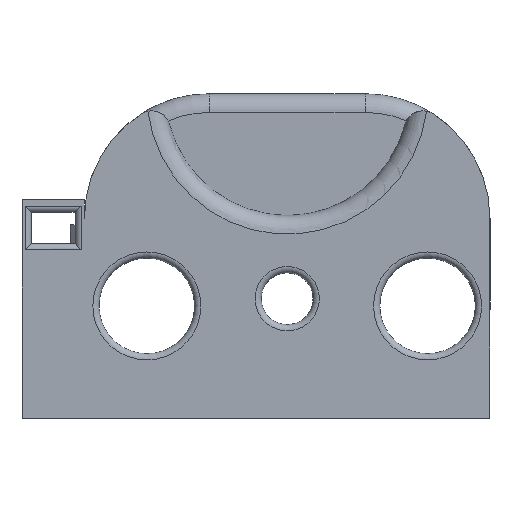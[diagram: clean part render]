
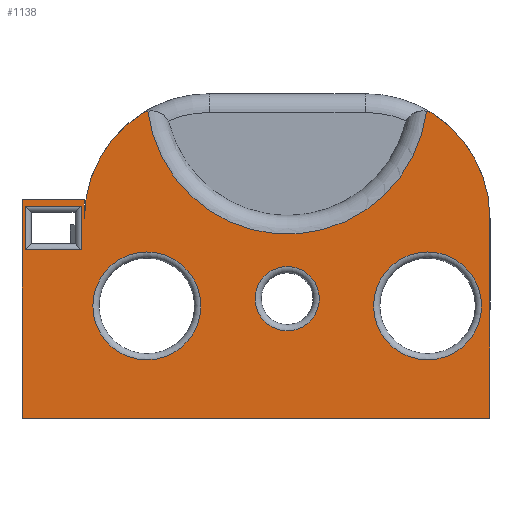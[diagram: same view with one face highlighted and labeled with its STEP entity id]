
A CAD part, left-side view. The second image highlights one B-rep face of the part: STEP entity #1138.
In plain terms, the highlighted planar face has unit normal (-1, 0, 0).
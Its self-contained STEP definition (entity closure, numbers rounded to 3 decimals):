
#32=FACE_BOUND('',#177,.T.);
#33=FACE_BOUND('',#178,.T.);
#34=FACE_BOUND('',#179,.T.);
#35=FACE_BOUND('',#180,.T.);
#61=PLANE('',#1242);
#107=FACE_OUTER_BOUND('',#176,.T.);
#176=EDGE_LOOP('',(#820,#821,#822,#823,#824,#825,#826,#827,#828,#829));
#177=EDGE_LOOP('',(#830));
#178=EDGE_LOOP('',(#831,#832,#833,#834));
#179=EDGE_LOOP('',(#835));
#180=EDGE_LOOP('',(#836));
#266=CIRCLE('',#1221,3.);
#267=CIRCLE('',#1223,3.);
#270=CIRCLE('',#1227,22.5);
#278=CIRCLE('',#1240,20.);
#280=CIRCLE('',#1243,20.);
#281=CIRCLE('',#1244,8.65);
#282=CIRCLE('',#1245,5.15);
#283=CIRCLE('',#1246,8.65);
#319=LINE('',#1816,#419);
#320=LINE('',#1818,#420);
#321=LINE('',#1820,#421);
#322=LINE('',#1822,#422);
#323=LINE('',#1823,#423);
#324=LINE('',#1828,#424);
#325=LINE('',#1830,#425);
#326=LINE('',#1832,#426);
#327=LINE('',#1833,#427);
#419=VECTOR('',#1407,10.);
#420=VECTOR('',#1408,10.);
#421=VECTOR('',#1409,10.);
#422=VECTOR('',#1410,10.);
#423=VECTOR('',#1411,10.);
#424=VECTOR('',#1414,10.);
#425=VECTOR('',#1415,10.);
#426=VECTOR('',#1416,10.);
#427=VECTOR('',#1417,10.);
#509=VERTEX_POINT('',#1701);
#514=VERTEX_POINT('',#1725);
#516=VERTEX_POINT('',#1743);
#517=VERTEX_POINT('',#1745);
#525=VERTEX_POINT('',#1801);
#530=VERTEX_POINT('',#1813);
#531=VERTEX_POINT('',#1815);
#532=VERTEX_POINT('',#1817);
#533=VERTEX_POINT('',#1819);
#534=VERTEX_POINT('',#1821);
#535=VERTEX_POINT('',#1824);
#536=VERTEX_POINT('',#1826);
#537=VERTEX_POINT('',#1827);
#538=VERTEX_POINT('',#1829);
#539=VERTEX_POINT('',#1831);
#540=VERTEX_POINT('',#1834);
#541=VERTEX_POINT('',#1836);
#622=EDGE_CURVE('',#514,#509,#266,.T.);
#624=EDGE_CURVE('',#516,#517,#267,.T.);
#630=EDGE_CURVE('',#517,#514,#270,.T.);
#640=EDGE_CURVE('',#509,#525,#278,.T.);
#646=EDGE_CURVE('',#530,#516,#280,.T.);
#647=EDGE_CURVE('',#530,#531,#319,.T.);
#648=EDGE_CURVE('',#531,#532,#320,.T.);
#649=EDGE_CURVE('',#532,#533,#321,.T.);
#650=EDGE_CURVE('',#534,#533,#322,.T.);
#651=EDGE_CURVE('',#525,#534,#323,.T.);
#652=EDGE_CURVE('',#535,#535,#281,.T.);
#653=EDGE_CURVE('',#536,#537,#324,.T.);
#654=EDGE_CURVE('',#538,#536,#325,.T.);
#655=EDGE_CURVE('',#539,#538,#326,.T.);
#656=EDGE_CURVE('',#537,#539,#327,.T.);
#657=EDGE_CURVE('',#540,#540,#282,.T.);
#658=EDGE_CURVE('',#541,#541,#283,.T.);
#820=ORIENTED_EDGE('',*,*,#622,.F.);
#821=ORIENTED_EDGE('',*,*,#630,.F.);
#822=ORIENTED_EDGE('',*,*,#624,.F.);
#823=ORIENTED_EDGE('',*,*,#646,.F.);
#824=ORIENTED_EDGE('',*,*,#647,.T.);
#825=ORIENTED_EDGE('',*,*,#648,.T.);
#826=ORIENTED_EDGE('',*,*,#649,.T.);
#827=ORIENTED_EDGE('',*,*,#650,.F.);
#828=ORIENTED_EDGE('',*,*,#651,.F.);
#829=ORIENTED_EDGE('',*,*,#640,.F.);
#830=ORIENTED_EDGE('',*,*,#652,.F.);
#831=ORIENTED_EDGE('',*,*,#653,.F.);
#832=ORIENTED_EDGE('',*,*,#654,.F.);
#833=ORIENTED_EDGE('',*,*,#655,.F.);
#834=ORIENTED_EDGE('',*,*,#656,.F.);
#835=ORIENTED_EDGE('',*,*,#657,.F.);
#836=ORIENTED_EDGE('',*,*,#658,.F.);
#1138=ADVANCED_FACE('',(#107,#32,#33,#34,#35),#61,.F.);
#1221=AXIS2_PLACEMENT_3D('',#1740,#1353,#1354);
#1223=AXIS2_PLACEMENT_3D('',#1746,#1358,#1359);
#1227=AXIS2_PLACEMENT_3D('',#1782,#1367,#1368);
#1240=AXIS2_PLACEMENT_3D('',#1802,#1395,#1396);
#1242=AXIS2_PLACEMENT_3D('',#1812,#1403,#1404);
#1243=AXIS2_PLACEMENT_3D('',#1814,#1405,#1406);
#1244=AXIS2_PLACEMENT_3D('',#1825,#1412,#1413);
#1245=AXIS2_PLACEMENT_3D('',#1835,#1418,#1419);
#1246=AXIS2_PLACEMENT_3D('',#1837,#1420,#1421);
#1353=DIRECTION('center_axis',(1.,0.,0.));
#1354=DIRECTION('ref_axis',(0.,0.36,0.933));
#1358=DIRECTION('center_axis',(1.,0.,0.));
#1359=DIRECTION('ref_axis',(0.,-0.36,0.933));
#1367=DIRECTION('center_axis',(-1.,0.,0.));
#1368=DIRECTION('ref_axis',(0.,0.,-1.));
#1395=DIRECTION('center_axis',(1.,0.,0.));
#1396=DIRECTION('ref_axis',(0.,-0.707,0.707));
#1403=DIRECTION('center_axis',(1.,0.,0.));
#1404=DIRECTION('ref_axis',(0.,0.,-1.));
#1405=DIRECTION('center_axis',(1.,0.,0.));
#1406=DIRECTION('ref_axis',(0.,0.707,0.707));
#1407=DIRECTION('',(0.,0.,1.));
#1408=DIRECTION('',(0.,1.,0.));
#1409=DIRECTION('',(0.,0.,-1.));
#1410=DIRECTION('',(0.,1.,0.));
#1411=DIRECTION('',(0.,0.,-1.));
#1412=DIRECTION('center_axis',(-1.,0.,0.));
#1413=DIRECTION('ref_axis',(0.,-1.,0.));
#1414=DIRECTION('',(0.,-1.,0.));
#1415=DIRECTION('',(0.,0.,-1.));
#1416=DIRECTION('',(0.,1.,0.));
#1417=DIRECTION('',(0.,0.,1.));
#1418=DIRECTION('center_axis',(-1.,0.,0.));
#1419=DIRECTION('ref_axis',(0.,-1.,0.));
#1420=DIRECTION('center_axis',(-1.,0.,0.));
#1421=DIRECTION('ref_axis',(0.,-1.,0.));
#1701=CARTESIAN_POINT('',(0.,9.111,48.776));
#1725=CARTESIAN_POINT('',(0.,10.174,49.205));
#1740=CARTESIAN_POINT('Origin',(0.,10.745,46.26));
#1743=CARTESIAN_POINT('',(0.,55.889,48.776));
#1745=CARTESIAN_POINT('',(0.,54.826,49.205));
#1746=CARTESIAN_POINT('Origin',(0.,54.255,46.26));
#1782=CARTESIAN_POINT('Origin',(0.,32.5,52.));
#1801=CARTESIAN_POINT('',(0.,0.,32.));
#1802=CARTESIAN_POINT('Origin',(0.,20.,32.));
#1812=CARTESIAN_POINT('Origin',(0.,32.5,26.));
#1813=CARTESIAN_POINT('',(0.,65.,32.));
#1814=CARTESIAN_POINT('Origin',(0.,45.,32.));
#1815=CARTESIAN_POINT('',(0.,65.,35.));
#1816=CARTESIAN_POINT('',(0.,65.,0.));
#1817=CARTESIAN_POINT('',(0.,75.,35.));
#1818=CARTESIAN_POINT('',(0.,65.,35.));
#1819=CARTESIAN_POINT('',(0.,75.,0.));
#1820=CARTESIAN_POINT('',(0.,75.,35.));
#1821=CARTESIAN_POINT('',(0.,0.,0.));
#1822=CARTESIAN_POINT('',(0.,0.,0.));
#1823=CARTESIAN_POINT('',(0.,0.,52.));
#1824=CARTESIAN_POINT('',(0.,18.65,18.));
#1825=CARTESIAN_POINT('Origin',(0.,10.,18.));
#1826=CARTESIAN_POINT('',(0.,74.5,27.));
#1827=CARTESIAN_POINT('',(0.,65.5,27.));
#1828=CARTESIAN_POINT('',(0.,49.5,27.));
#1829=CARTESIAN_POINT('',(0.,74.5,34.));
#1830=CARTESIAN_POINT('',(0.,74.5,27.));
#1831=CARTESIAN_POINT('',(0.,65.5,34.));
#1832=CARTESIAN_POINT('',(0.,53.,34.));
#1833=CARTESIAN_POINT('',(0.,65.5,29.5));
#1834=CARTESIAN_POINT('',(0.,37.65,19.15));
#1835=CARTESIAN_POINT('Origin',(0.,32.5,19.15));
#1836=CARTESIAN_POINT('',(0.,63.65,18.));
#1837=CARTESIAN_POINT('Origin',(0.,55.,18.));
